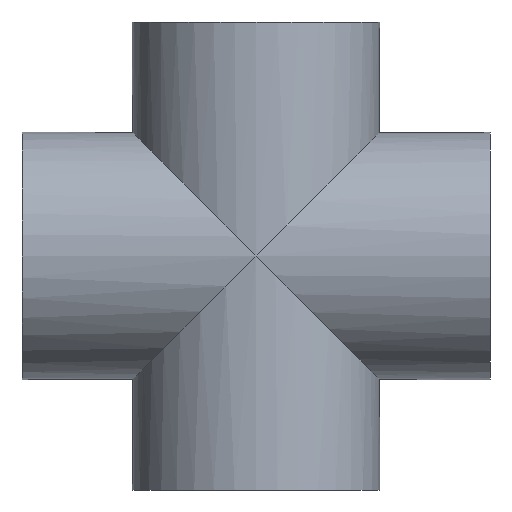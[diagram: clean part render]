
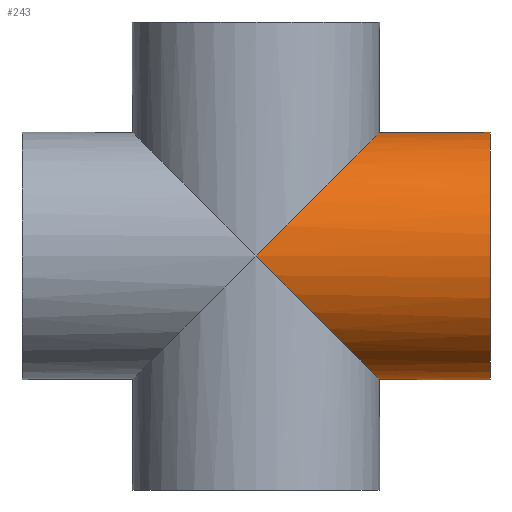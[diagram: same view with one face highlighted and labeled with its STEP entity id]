
A CAD part, left-side view. The second image highlights one B-rep face of the part: STEP entity #243.
In plain terms, the highlighted cylindrical face has radius 37.5 mm (diameter 75 mm), a full revolution.
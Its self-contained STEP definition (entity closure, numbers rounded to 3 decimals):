
#19=ELLIPSE('',#282,53.033,37.5);
#20=ELLIPSE('',#283,53.033,37.5);
#43=FACE_BOUND('',#96,.T.);
#63=FACE_OUTER_BOUND('',#95,.T.);
#95=EDGE_LOOP('',(#199,#200));
#96=EDGE_LOOP('',(#201));
#123=CIRCLE('',#284,37.5);
#141=VERTEX_POINT('',#431);
#142=VERTEX_POINT('',#432);
#143=VERTEX_POINT('',#435);
#163=EDGE_CURVE('',#141,#142,#19,.T.);
#164=EDGE_CURVE('',#142,#141,#20,.T.);
#165=EDGE_CURVE('',#143,#143,#123,.T.);
#199=ORIENTED_EDGE('',*,*,#163,.F.);
#200=ORIENTED_EDGE('',*,*,#164,.F.);
#201=ORIENTED_EDGE('',*,*,#165,.F.);
#227=CYLINDRICAL_SURFACE('',#281,37.5);
#243=ADVANCED_FACE('',(#63,#43),#227,.T.);
#281=AXIS2_PLACEMENT_3D('',#430,#355,#356);
#282=AXIS2_PLACEMENT_3D('',#433,#357,#358);
#283=AXIS2_PLACEMENT_3D('',#434,#359,#360);
#284=AXIS2_PLACEMENT_3D('',#436,#361,#362);
#355=DIRECTION('center_axis',(0.,1.,0.));
#356=DIRECTION('ref_axis',(1.,0.,0.));
#357=DIRECTION('center_axis',(0.,0.707,-0.707));
#358=DIRECTION('ref_axis',(0.,-0.707,-0.707));
#359=DIRECTION('center_axis',(0.,0.707,0.707));
#360=DIRECTION('ref_axis',(0.,0.707,-0.707));
#361=DIRECTION('center_axis',(0.,-1.,0.));
#362=DIRECTION('ref_axis',(1.,0.,0.));
#430=CARTESIAN_POINT('Origin',(0.,0.,0.));
#431=CARTESIAN_POINT('',(37.5,0.,0.));
#432=CARTESIAN_POINT('',(-37.5,0.,0.));
#433=CARTESIAN_POINT('Origin',(0.,0.,0.));
#434=CARTESIAN_POINT('Origin',(0.,0.,0.));
#435=CARTESIAN_POINT('',(-37.5,-71.,0.));
#436=CARTESIAN_POINT('Origin',(0.,-71.,0.));
